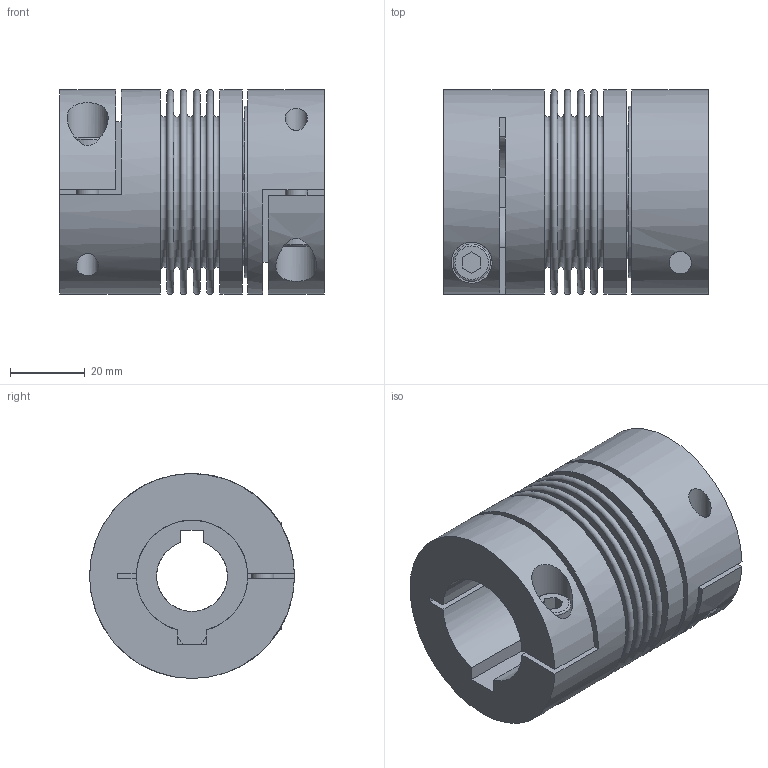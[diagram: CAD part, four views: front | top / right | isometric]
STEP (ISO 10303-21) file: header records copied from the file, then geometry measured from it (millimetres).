
FILE_DESCRIPTION(/* description */ ('STEP AP214'),/* implementation_level */ '2;1');
FILE_NAME(/* name */ 'C:\Diequa Files\DieQua Coupling\BCB\STP\BCB.30.71.#.#.stp',/* time_stamp */ '2018-11-26T10:40:45-06:00',/* author */ ('DiequaCAD'),/* organization */ (''),/* preprocessor_version */ 'ST-DEVELOPER v17.2',/* originating_system */ 'Autodesk Inventor 2019',/* authorisation */ ' ');
FILE_SCHEMA (('AUTOMOTIVE_DESIGN { 1 0 10303 214 3 1 1 }'));
Length unit declared in the file: millimetre
Products named in the file (3): BCB.30.71.#.#; 2018_11_09__17-50-06-744; 2018_11_09__17-50-06-744_1
Assembly tree (2 placements, depth 2):
  BCB.30.71.#.#
    2018_11_09__17-50-06-744
    2018_11_09__17-50-06-744_1
Bounding box: 71 x 55 x 55 mm (x, y, z)
Volume: 109249.3 mm3; surface area: 44442.3 mm2
Topology: 2 solids, 2 shells, 126 faces, 319 edges, 217 vertices
Faces by surface type: plane 68, cone 24, cylinder 23, torus 11
Full cylindrical faces by diameter (mm): 6 x4, 10 x2, 11 x2, 38 x1, 46 x2, 55 x3
Entity records: 4240 total; most frequent: CARTESIAN_POINT 939, DIRECTION 713, ORIENTED_EDGE 638, EDGE_CURVE 319, AXIS2_PLACEMENT_3D 293, VERTEX_POINT 217, CIRCLE 162, EDGE_LOOP 154
